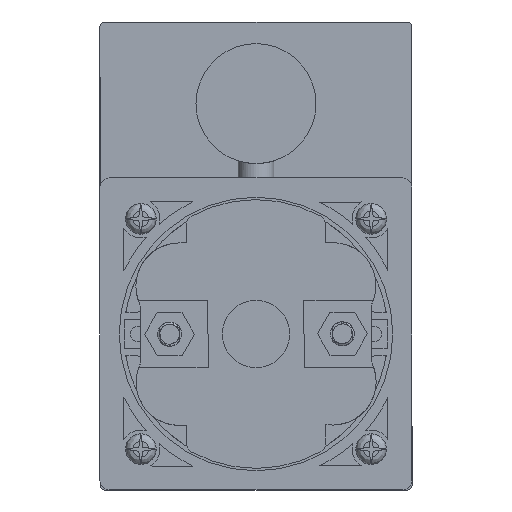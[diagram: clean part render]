
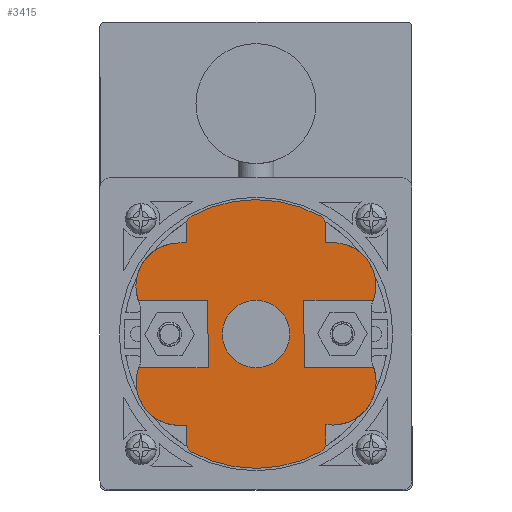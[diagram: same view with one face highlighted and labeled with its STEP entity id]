
A CAD part, front view. The second image highlights one B-rep face of the part: STEP entity #3415.
In plain terms, the highlighted planar face has unit normal (0, -1, 0).
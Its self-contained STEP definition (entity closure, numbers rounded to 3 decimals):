
#3415=ADVANCED_FACE('',(#7924,#7925),#4339,.F.);
#4339=PLANE('',#23636);
#5636=LINE('',#64438,#7186);
#5637=LINE('',#64443,#7187);
#5638=LINE('',#64445,#7188);
#5639=LINE('',#64453,#7189);
#5640=LINE('',#64457,#7190);
#5641=LINE('',#64461,#7191);
#5642=LINE('',#64463,#7192);
#5643=LINE('',#64465,#7193);
#5644=LINE('',#64469,#7194);
#5645=LINE('',#64471,#7195);
#5646=LINE('',#64479,#7196);
#5647=LINE('',#64481,#7197);
#5648=LINE('',#64485,#7198);
#5649=LINE('',#64487,#7199);
#7186=VECTOR('',#28070,1.);
#7187=VECTOR('',#28073,1.);
#7188=VECTOR('',#28074,1.);
#7189=VECTOR('',#28081,1.);
#7190=VECTOR('',#28084,1.);
#7191=VECTOR('',#28087,1.);
#7192=VECTOR('',#28088,1.);
#7193=VECTOR('',#28089,1.);
#7194=VECTOR('',#28092,1.);
#7195=VECTOR('',#28093,1.);
#7196=VECTOR('',#28100,1.);
#7197=VECTOR('',#28101,1.);
#7198=VECTOR('',#28104,1.);
#7199=VECTOR('',#28105,1.);
#7924=FACE_BOUND('',#8985,.T.);
#7925=FACE_BOUND('',#8986,.T.);
#8985=EDGE_LOOP('',(#13558,#13559,#13560,#13561,#13562,#13563,#13564,#13565,
#13566,#13567,#13568,#13569,#13570,#13571,#13572,#13573,#13574,#13575,#13576,
#13577,#13578,#13579,#13580,#13581,#13582));
#8986=EDGE_LOOP('',(#13583));
#13558=ORIENTED_EDGE('',*,*,#20303,.F.);
#13559=ORIENTED_EDGE('',*,*,#20304,.T.);
#13560=ORIENTED_EDGE('',*,*,#20305,.T.);
#13561=ORIENTED_EDGE('',*,*,#20306,.T.);
#13562=ORIENTED_EDGE('',*,*,#20307,.T.);
#13563=ORIENTED_EDGE('',*,*,#20308,.T.);
#13564=ORIENTED_EDGE('',*,*,#20309,.T.);
#13565=ORIENTED_EDGE('',*,*,#20310,.T.);
#13566=ORIENTED_EDGE('',*,*,#20311,.T.);
#13567=ORIENTED_EDGE('',*,*,#20312,.T.);
#13568=ORIENTED_EDGE('',*,*,#20313,.T.);
#13569=ORIENTED_EDGE('',*,*,#20314,.F.);
#13570=ORIENTED_EDGE('',*,*,#20315,.F.);
#13571=ORIENTED_EDGE('',*,*,#20316,.F.);
#13572=ORIENTED_EDGE('',*,*,#20317,.T.);
#13573=ORIENTED_EDGE('',*,*,#20318,.T.);
#13574=ORIENTED_EDGE('',*,*,#20319,.T.);
#13575=ORIENTED_EDGE('',*,*,#20320,.T.);
#13576=ORIENTED_EDGE('',*,*,#20321,.T.);
#13577=ORIENTED_EDGE('',*,*,#20322,.T.);
#13578=ORIENTED_EDGE('',*,*,#20323,.T.);
#13579=ORIENTED_EDGE('',*,*,#20324,.T.);
#13580=ORIENTED_EDGE('',*,*,#20325,.T.);
#13581=ORIENTED_EDGE('',*,*,#20326,.F.);
#13582=ORIENTED_EDGE('',*,*,#20327,.F.);
#13583=ORIENTED_EDGE('',*,*,#20328,.F.);
#17470=VERTEX_POINT('',#64439);
#17471=VERTEX_POINT('',#64440);
#17472=VERTEX_POINT('',#64442);
#17473=VERTEX_POINT('',#64444);
#17474=VERTEX_POINT('',#64446);
#17475=VERTEX_POINT('',#64448);
#17476=VERTEX_POINT('',#64450);
#17477=VERTEX_POINT('',#64452);
#17478=VERTEX_POINT('',#64454);
#17479=VERTEX_POINT('',#64456);
#17480=VERTEX_POINT('',#64458);
#17481=VERTEX_POINT('',#64460);
#17482=VERTEX_POINT('',#64462);
#17483=VERTEX_POINT('',#64464);
#17484=VERTEX_POINT('',#64466);
#17485=VERTEX_POINT('',#64468);
#17486=VERTEX_POINT('',#64470);
#17487=VERTEX_POINT('',#64472);
#17488=VERTEX_POINT('',#64474);
#17489=VERTEX_POINT('',#64476);
#17490=VERTEX_POINT('',#64478);
#17491=VERTEX_POINT('',#64480);
#17492=VERTEX_POINT('',#64482);
#17493=VERTEX_POINT('',#64484);
#17494=VERTEX_POINT('',#64486);
#17495=VERTEX_POINT('',#64489);
#20303=EDGE_CURVE('',#17470,#17471,#5636,.T.);
#20304=EDGE_CURVE('',#17470,#17472,#21996,.T.);
#20305=EDGE_CURVE('',#17472,#17473,#5637,.T.);
#20306=EDGE_CURVE('',#17473,#17474,#5638,.T.);
#20307=EDGE_CURVE('',#17474,#17475,#21997,.T.);
#20308=EDGE_CURVE('',#17475,#17476,#21998,.T.);
#20309=EDGE_CURVE('',#17476,#17477,#21999,.T.);
#20310=EDGE_CURVE('',#17477,#17478,#5639,.T.);
#20311=EDGE_CURVE('',#17478,#17479,#22000,.T.);
#20312=EDGE_CURVE('',#17479,#17480,#5640,.T.);
#20313=EDGE_CURVE('',#17480,#17481,#22001,.T.);
#20314=EDGE_CURVE('',#17482,#17481,#5641,.T.);
#20315=EDGE_CURVE('',#17483,#17482,#5642,.T.);
#20316=EDGE_CURVE('',#17484,#17483,#5643,.T.);
#20317=EDGE_CURVE('',#17484,#17485,#22002,.T.);
#20318=EDGE_CURVE('',#17485,#17486,#5644,.T.);
#20319=EDGE_CURVE('',#17486,#17487,#5645,.T.);
#20320=EDGE_CURVE('',#17487,#17488,#22003,.T.);
#20321=EDGE_CURVE('',#17488,#17489,#22004,.T.);
#20322=EDGE_CURVE('',#17489,#17490,#22005,.T.);
#20323=EDGE_CURVE('',#17490,#17491,#5646,.T.);
#20324=EDGE_CURVE('',#17491,#17492,#5647,.T.);
#20325=EDGE_CURVE('',#17492,#17493,#22006,.T.);
#20326=EDGE_CURVE('',#17494,#17493,#5648,.T.);
#20327=EDGE_CURVE('',#17471,#17494,#5649,.T.);
#20328=EDGE_CURVE('',#17495,#17495,#22007,.T.);
#21996=CIRCLE('',#23624,9.);
#21997=CIRCLE('',#23625,2.);
#21998=CIRCLE('',#23626,28.);
#21999=CIRCLE('',#23627,2.);
#22000=CIRCLE('',#23628,8.96);
#22001=CIRCLE('',#23629,9.);
#22002=CIRCLE('',#23630,9.);
#22003=CIRCLE('',#23631,2.);
#22004=CIRCLE('',#23632,28.);
#22005=CIRCLE('',#23633,2.);
#22006=CIRCLE('',#23634,9.);
#22007=CIRCLE('',#23635,7.);
#23624=AXIS2_PLACEMENT_3D('',#64441,#28071,#28072);
#23625=AXIS2_PLACEMENT_3D('',#64447,#28075,#28076);
#23626=AXIS2_PLACEMENT_3D('',#64449,#28077,#28078);
#23627=AXIS2_PLACEMENT_3D('',#64451,#28079,#28080);
#23628=AXIS2_PLACEMENT_3D('',#64455,#28082,#28083);
#23629=AXIS2_PLACEMENT_3D('',#64459,#28085,#28086);
#23630=AXIS2_PLACEMENT_3D('',#64467,#28090,#28091);
#23631=AXIS2_PLACEMENT_3D('',#64473,#28094,#28095);
#23632=AXIS2_PLACEMENT_3D('',#64475,#28096,#28097);
#23633=AXIS2_PLACEMENT_3D('',#64477,#28098,#28099);
#23634=AXIS2_PLACEMENT_3D('',#64483,#28102,#28103);
#23635=AXIS2_PLACEMENT_3D('',#64488,#28106,#28107);
#23636=AXIS2_PLACEMENT_3D('',#64490,#28108,#28109);
#28070=DIRECTION('',(1.,0.,0.003));
#28071=DIRECTION('',(0.,-1.,0.));
#28072=DIRECTION('',(-0.89,0.,0.456));
#28073=DIRECTION('',(1.,0.,0.003));
#28074=DIRECTION('',(0.003,0.,-1.));
#28075=DIRECTION('',(0.,-1.,0.));
#28076=DIRECTION('',(1.,0.,0.003));
#28077=DIRECTION('',(0.,-1.,0.));
#28078=DIRECTION('',(1.,0.,0.003));
#28079=DIRECTION('',(0.,-1.,0.));
#28080=DIRECTION('',(1.,0.,0.003));
#28081=DIRECTION('',(-0.003,0.,1.));
#28082=DIRECTION('',(0.,-1.,0.));
#28083=DIRECTION('',(0.,0.,-1.));
#28084=DIRECTION('',(1.,0.,0.003));
#28085=DIRECTION('',(0.,-1.,0.));
#28086=DIRECTION('',(0.,0.,-1.));
#28087=DIRECTION('',(1.,0.,0.003));
#28088=DIRECTION('',(0.003,0.,-1.));
#28089=DIRECTION('',(-1.,0.,-0.003));
#28090=DIRECTION('',(0.,-1.,0.));
#28091=DIRECTION('',(1.,0.,0.003));
#28092=DIRECTION('',(-1.,0.,-0.003));
#28093=DIRECTION('',(-0.003,0.,1.));
#28094=DIRECTION('',(0.,-1.,0.));
#28095=DIRECTION('',(1.,0.,0.003));
#28096=DIRECTION('',(0.,-1.,0.));
#28097=DIRECTION('',(1.,0.,0.003));
#28098=DIRECTION('',(0.,-1.,0.));
#28099=DIRECTION('',(1.,0.,0.003));
#28100=DIRECTION('',(0.003,0.,-1.));
#28101=DIRECTION('',(-1.,0.,-0.003));
#28102=DIRECTION('',(0.,-1.,0.));
#28103=DIRECTION('',(-1.,0.,-0.003));
#28104=DIRECTION('',(-1.,0.,-0.003));
#28105=DIRECTION('',(-0.003,0.,1.));
#28106=DIRECTION('',(0.,-1.,0.));
#28107=DIRECTION('',(-1.,0.,-0.003));
#28108=DIRECTION('',(0.,1.,0.));
#28109=DIRECTION('',(0.,0.,1.));
#64438=CARTESIAN_POINT('',(-34.164,-81.1,-7.088));
#64439=CARTESIAN_POINT('',(-24.468,-81.1,-7.063));
#64440=CARTESIAN_POINT('',(-9.982,-81.1,-7.026));
#64441=CARTESIAN_POINT('',(-15.974,-81.1,-10.041));
#64442=CARTESIAN_POINT('',(-15.951,-81.1,-19.041));
#64443=CARTESIAN_POINT('',(23.753,-81.1,-18.934));
#64444=CARTESIAN_POINT('',(-14.451,-81.1,-19.037));
#64445=CARTESIAN_POINT('',(-14.451,-81.1,-19.037));
#64446=CARTESIAN_POINT('',(-14.441,-81.1,-22.835));
#64447=CARTESIAN_POINT('',(-12.441,-81.1,-22.83));
#64448=CARTESIAN_POINT('',(-13.398,-81.1,-24.586));
#64449=CARTESIAN_POINT('',(0.,-81.1,0.));
#64450=CARTESIAN_POINT('',(13.525,-81.1,-24.517));
#64451=CARTESIAN_POINT('',(12.558,-81.1,-22.766));
#64452=CARTESIAN_POINT('',(14.558,-81.1,-22.761));
#64453=CARTESIAN_POINT('',(14.558,-81.1,-22.761));
#64454=CARTESIAN_POINT('',(14.548,-81.1,-18.837));
#64455=CARTESIAN_POINT('',(16.02,-81.1,-9.999));
#64456=CARTESIAN_POINT('',(15.978,-81.1,-18.959));
#64457=CARTESIAN_POINT('',(23.752,-81.1,-18.938));
#64458=CARTESIAN_POINT('',(16.119,-81.1,-18.958));
#64459=CARTESIAN_POINT('',(16.026,-81.1,-9.959));
#64460=CARTESIAN_POINT('',(24.503,-81.1,-6.937));
#64461=CARTESIAN_POINT('',(10.018,-81.1,-6.974));
#64462=CARTESIAN_POINT('',(10.018,-81.1,-6.974));
#64463=CARTESIAN_POINT('',(9.982,-81.1,7.026));
#64464=CARTESIAN_POINT('',(9.982,-81.1,7.026));
#64465=CARTESIAN_POINT('',(34.164,-81.1,7.088));
#64466=CARTESIAN_POINT('',(24.467,-81.1,7.063));
#64467=CARTESIAN_POINT('',(15.974,-81.1,10.041));
#64468=CARTESIAN_POINT('',(15.951,-81.1,19.041));
#64469=CARTESIAN_POINT('',(15.951,-81.1,19.041));
#64470=CARTESIAN_POINT('',(14.451,-81.1,19.037));
#64471=CARTESIAN_POINT('',(14.451,-81.1,19.037));
#64472=CARTESIAN_POINT('',(14.441,-81.1,22.835));
#64473=CARTESIAN_POINT('',(12.441,-81.1,22.83));
#64474=CARTESIAN_POINT('',(13.398,-81.1,24.586));
#64475=CARTESIAN_POINT('',(0.,-81.1,0.));
#64476=CARTESIAN_POINT('',(-13.525,-81.1,24.517));
#64477=CARTESIAN_POINT('',(-12.558,-81.1,22.766));
#64478=CARTESIAN_POINT('',(-14.558,-81.1,22.761));
#64479=CARTESIAN_POINT('',(-14.558,-81.1,22.761));
#64480=CARTESIAN_POINT('',(-14.549,-81.1,18.963));
#64481=CARTESIAN_POINT('',(-14.549,-81.1,18.963));
#64482=CARTESIAN_POINT('',(-16.049,-81.1,18.959));
#64483=CARTESIAN_POINT('',(-16.026,-81.1,9.959));
#64484=CARTESIAN_POINT('',(-24.503,-81.1,6.937));
#64485=CARTESIAN_POINT('',(-10.018,-81.1,6.974));
#64486=CARTESIAN_POINT('',(-10.018,-81.1,6.974));
#64487=CARTESIAN_POINT('',(-9.982,-81.1,-7.026));
#64488=CARTESIAN_POINT('',(0.,-81.1,0.));
#64489=CARTESIAN_POINT('',(-7.,-81.1,-0.018));
#64490=CARTESIAN_POINT('',(23.741,-81.1,-14.593));
